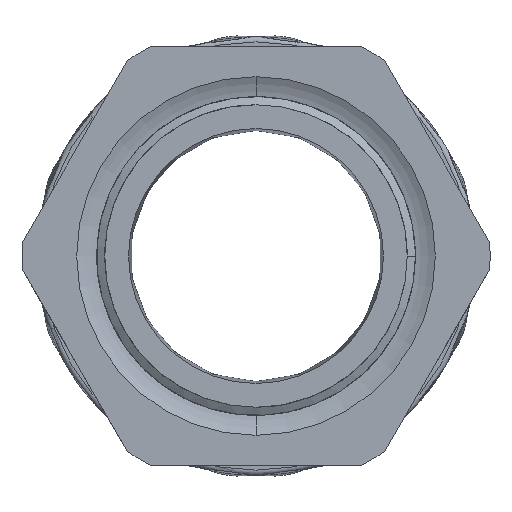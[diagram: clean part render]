
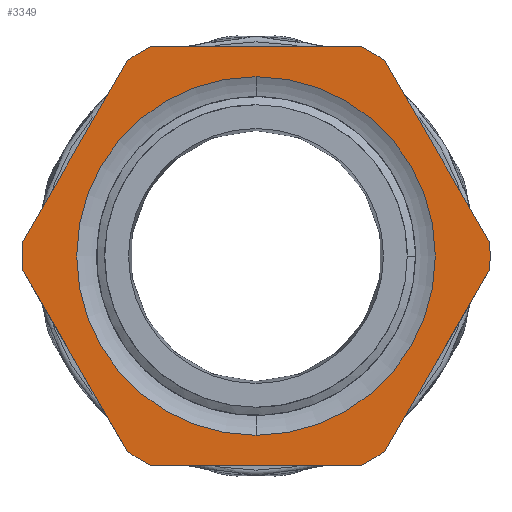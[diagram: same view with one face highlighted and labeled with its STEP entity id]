
A CAD part, front view. The second image highlights one B-rep face of the part: STEP entity #3349.
In plain terms, the highlighted planar face has unit normal (0, -1, 0).
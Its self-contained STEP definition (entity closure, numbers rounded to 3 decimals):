
#22 = VERTEX_POINT ( 'NONE', #14813 ) ;
#458 = CARTESIAN_POINT ( 'NONE',  ( 18., 11., -21. ) ) ;
#533 = CARTESIAN_POINT ( 'NONE',  ( 0., 11., 18. ) ) ;
#695 = CARTESIAN_POINT ( 'NONE',  ( 18., 11., 21. ) ) ;
#920 = VERTEX_POINT ( 'NONE', #12883 ) ;
#1186 = DIRECTION ( 'NONE',  ( 0., 0., -1. ) ) ;
#1460 = AXIS2_PLACEMENT_3D ( 'NONE', #14167, #2145, #2350 ) ;
#2010 = AXIS2_PLACEMENT_3D ( 'NONE', #15130, #12629, #5813 ) ;
#2114 = DIRECTION ( 'NONE',  ( -0.5, 0., -0.866 ) ) ;
#2145 = DIRECTION ( 'NONE',  ( 0., -1., 0. ) ) ;
#2319 = CARTESIAN_POINT ( 'NONE',  ( 10.548, 11., -21. ) ) ;
#2350 = DIRECTION ( 'NONE',  ( 0., 0., -1. ) ) ;
#2646 = CIRCLE ( 'NONE', #17952, 23.5 ) ;
#2652 = EDGE_CURVE ( 'NONE', #17617, #13005, #14490, .T. ) ;
#2809 = EDGE_LOOP ( 'NONE', ( #8623, #30623 ) ) ;
#2818 = VECTOR ( 'NONE', #18885, 1000. ) ;
#3156 = CARTESIAN_POINT ( 'NONE',  ( 12.913, 11., -19.634 ) ) ;
#3305 = CIRCLE ( 'NONE', #13209, 23.5 ) ;
#3349 = ADVANCED_FACE ( 'NONE', ( #4721, #11074 ), #16516, .T. ) ;
#3434 = DIRECTION ( 'NONE',  ( 0., 0., -1. ) ) ;
#3513 = DIRECTION ( 'NONE',  ( 0., 0., -1. ) ) ;
#3960 = EDGE_CURVE ( 'NONE', #22, #29405, #9170, .T. ) ;
#4018 = ORIENTED_EDGE ( 'NONE', *, *, #5511, .T. ) ;
#4721 = FACE_BOUND ( 'NONE', #2809, .T. ) ;
#5305 = VERTEX_POINT ( 'NONE', #11798 ) ;
#5511 = EDGE_CURVE ( 'NONE', #29405, #18199, #12539, .T. ) ;
#5714 = DIRECTION ( 'NONE',  ( -1., 0., 0. ) ) ;
#5722 = LINE ( 'NONE', #19786, #11326 ) ;
#5774 = VERTEX_POINT ( 'NONE', #24027 ) ;
#5813 = DIRECTION ( 'NONE',  ( 0., 0., -1. ) ) ;
#6590 = CARTESIAN_POINT ( 'NONE',  ( 12.913, 11., 19.634 ) ) ;
#7365 = CARTESIAN_POINT ( 'NONE',  ( -12.913, 11., -19.634 ) ) ;
#8415 = CARTESIAN_POINT ( 'NONE',  ( -13.687, 11., -18.294 ) ) ;
#8623 = ORIENTED_EDGE ( 'NONE', *, *, #15972, .F. ) ;
#8683 = VECTOR ( 'NONE', #2114, 1000. ) ;
#9170 = LINE ( 'NONE', #16506, #2818 ) ;
#9386 = DIRECTION ( 'NONE',  ( 0., -1., 0. ) ) ;
#9475 = CARTESIAN_POINT ( 'NONE',  ( 0., 11., 0. ) ) ;
#10159 = EDGE_CURVE ( 'NONE', #20301, #5305, #5722, .T. ) ;
#10652 = LINE ( 'NONE', #458, #14027 ) ;
#10653 = EDGE_CURVE ( 'NONE', #28112, #26637, #15053, .T. ) ;
#10795 = VERTEX_POINT ( 'NONE', #2319 ) ;
#11074 = FACE_OUTER_BOUND ( 'NONE', #22252, .T. ) ;
#11082 = DIRECTION ( 'NONE',  ( 0., -1., 0. ) ) ;
#11241 = CIRCLE ( 'NONE', #1460, 18. ) ;
#11326 = VECTOR ( 'NONE', #24682, 1000. ) ;
#11446 = EDGE_CURVE ( 'NONE', #26637, #30906, #2646, .T. ) ;
#11688 = CARTESIAN_POINT ( 'NONE',  ( 0., 11., 0. ) ) ;
#11798 = CARTESIAN_POINT ( 'NONE',  ( 23.46, 11., -1.366 ) ) ;
#12145 = DIRECTION ( 'NONE',  ( 1., 0., 0. ) ) ;
#12539 = CIRCLE ( 'NONE', #26200, 23.5 ) ;
#12629 = DIRECTION ( 'NONE',  ( 0., -1., 0. ) ) ;
#12883 = CARTESIAN_POINT ( 'NONE',  ( -10.548, 11., -21. ) ) ;
#12920 = ORIENTED_EDGE ( 'NONE', *, *, #26893, .T. ) ;
#13005 = VERTEX_POINT ( 'NONE', #27661 ) ;
#13070 = VECTOR ( 'NONE', #25102, 1000. ) ;
#13209 = AXIS2_PLACEMENT_3D ( 'NONE', #15791, #11082, #1186 ) ;
#13643 = ORIENTED_EDGE ( 'NONE', *, *, #10159, .T. ) ;
#13746 = CARTESIAN_POINT ( 'NONE',  ( 0., 11., 0. ) ) ;
#13905 = ORIENTED_EDGE ( 'NONE', *, *, #29073, .T. ) ;
#14027 = VECTOR ( 'NONE', #12145, 1000. ) ;
#14072 = DIRECTION ( 'NONE',  ( 0., -1., 0. ) ) ;
#14167 = CARTESIAN_POINT ( 'NONE',  ( 0., 11., 0. ) ) ;
#14490 = CIRCLE ( 'NONE', #2010, 18. ) ;
#14516 = CIRCLE ( 'NONE', #21798, 23.5 ) ;
#14596 = LINE ( 'NONE', #8415, #13070 ) ;
#14802 = EDGE_CURVE ( 'NONE', #30906, #28363, #14596, .T. ) ;
#14813 = CARTESIAN_POINT ( 'NONE',  ( 23.46, 11., 1.366 ) ) ;
#15053 = LINE ( 'NONE', #30665, #8683 ) ;
#15130 = CARTESIAN_POINT ( 'NONE',  ( 0., 11., 0. ) ) ;
#15146 = ORIENTED_EDGE ( 'NONE', *, *, #11446, .T. ) ;
#15791 = CARTESIAN_POINT ( 'NONE',  ( 0., 11., 0. ) ) ;
#15810 = VECTOR ( 'NONE', #5714, 1000. ) ;
#15972 = EDGE_CURVE ( 'NONE', #13005, #17617, #11241, .T. ) ;
#16290 = ORIENTED_EDGE ( 'NONE', *, *, #21013, .T. ) ;
#16506 = CARTESIAN_POINT ( 'NONE',  ( 22.687, 11., 2.706 ) ) ;
#16516 = PLANE ( 'NONE',  #23224 ) ;
#16566 = CIRCLE ( 'NONE', #21902, 23.5 ) ;
#17502 = DIRECTION ( 'NONE',  ( 0., -1., 0. ) ) ;
#17617 = VERTEX_POINT ( 'NONE', #533 ) ;
#17714 = DIRECTION ( 'NONE',  ( 0., -1., 0. ) ) ;
#17952 = AXIS2_PLACEMENT_3D ( 'NONE', #9475, #9386, #21459 ) ;
#18101 = CARTESIAN_POINT ( 'NONE',  ( 0., 11., 0. ) ) ;
#18199 = VERTEX_POINT ( 'NONE', #23997 ) ;
#18845 = DIRECTION ( 'NONE',  ( 0., 0., -1. ) ) ;
#18885 = DIRECTION ( 'NONE',  ( -0.5, 0., 0.866 ) ) ;
#19185 = ORIENTED_EDGE ( 'NONE', *, *, #27554, .T. ) ;
#19685 = ORIENTED_EDGE ( 'NONE', *, *, #22526, .T. ) ;
#19786 = CARTESIAN_POINT ( 'NONE',  ( 22.687, 11., -2.706 ) ) ;
#20301 = VERTEX_POINT ( 'NONE', #3156 ) ;
#20505 = CARTESIAN_POINT ( 'NONE',  ( -23.46, 11., 1.366 ) ) ;
#20622 = LINE ( 'NONE', #695, #15810 ) ;
#21013 = EDGE_CURVE ( 'NONE', #28363, #920, #16566, .T. ) ;
#21257 = EDGE_CURVE ( 'NONE', #18199, #5774, #20622, .T. ) ;
#21313 = CIRCLE ( 'NONE', #21533, 23.5 ) ;
#21459 = DIRECTION ( 'NONE',  ( 0., 0., -1. ) ) ;
#21533 = AXIS2_PLACEMENT_3D ( 'NONE', #13746, #29748, #3513 ) ;
#21670 = CARTESIAN_POINT ( 'NONE',  ( 0., 11., 0. ) ) ;
#21798 = AXIS2_PLACEMENT_3D ( 'NONE', #18101, #29220, #27031 ) ;
#21902 = AXIS2_PLACEMENT_3D ( 'NONE', #11688, #14072, #18845 ) ;
#22252 = EDGE_LOOP ( 'NONE', ( #12920, #13643, #19185, #25635, #4018, #26811, #19685, #30134, #15146, #27398, #16290, #13905 ) ) ;
#22526 = EDGE_CURVE ( 'NONE', #5774, #28112, #21313, .T. ) ;
#23057 = CARTESIAN_POINT ( 'NONE',  ( 18., 11., 0. ) ) ;
#23224 = AXIS2_PLACEMENT_3D ( 'NONE', #23057, #17502, #3434 ) ;
#23997 = CARTESIAN_POINT ( 'NONE',  ( 10.548, 11., 21. ) ) ;
#24027 = CARTESIAN_POINT ( 'NONE',  ( -10.548, 11., 21. ) ) ;
#24682 = DIRECTION ( 'NONE',  ( 0.5, 0., 0.866 ) ) ;
#25002 = DIRECTION ( 'NONE',  ( 0., 0., -1. ) ) ;
#25102 = DIRECTION ( 'NONE',  ( 0.5, 0., -0.866 ) ) ;
#25211 = CARTESIAN_POINT ( 'NONE',  ( -23.46, 11., -1.366 ) ) ;
#25316 = CARTESIAN_POINT ( 'NONE',  ( -12.913, 11., 19.634 ) ) ;
#25635 = ORIENTED_EDGE ( 'NONE', *, *, #3960, .T. ) ;
#26200 = AXIS2_PLACEMENT_3D ( 'NONE', #21670, #17714, #25002 ) ;
#26637 = VERTEX_POINT ( 'NONE', #20505 ) ;
#26811 = ORIENTED_EDGE ( 'NONE', *, *, #21257, .T. ) ;
#26893 = EDGE_CURVE ( 'NONE', #10795, #20301, #14516, .T. ) ;
#27031 = DIRECTION ( 'NONE',  ( 0., 0., -1. ) ) ;
#27398 = ORIENTED_EDGE ( 'NONE', *, *, #14802, .T. ) ;
#27554 = EDGE_CURVE ( 'NONE', #5305, #22, #3305, .T. ) ;
#27661 = CARTESIAN_POINT ( 'NONE',  ( 0., 11., -18. ) ) ;
#28112 = VERTEX_POINT ( 'NONE', #25316 ) ;
#28363 = VERTEX_POINT ( 'NONE', #7365 ) ;
#29073 = EDGE_CURVE ( 'NONE', #920, #10795, #10652, .T. ) ;
#29220 = DIRECTION ( 'NONE',  ( 0., -1., 0. ) ) ;
#29405 = VERTEX_POINT ( 'NONE', #6590 ) ;
#29748 = DIRECTION ( 'NONE',  ( 0., -1., 0. ) ) ;
#30134 = ORIENTED_EDGE ( 'NONE', *, *, #10653, .T. ) ;
#30623 = ORIENTED_EDGE ( 'NONE', *, *, #2652, .F. ) ;
#30665 = CARTESIAN_POINT ( 'NONE',  ( -13.687, 11., 18.294 ) ) ;
#30906 = VERTEX_POINT ( 'NONE', #25211 ) ;
